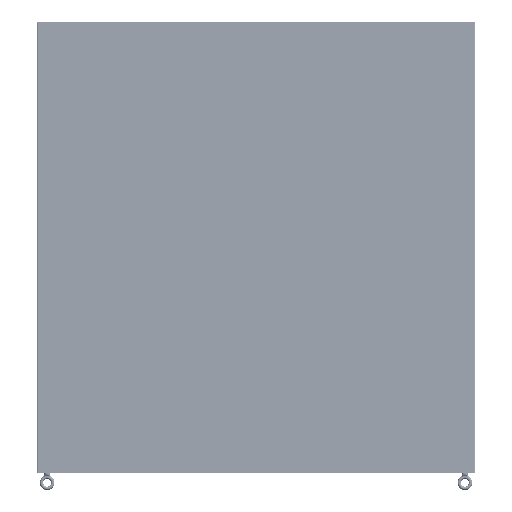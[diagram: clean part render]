
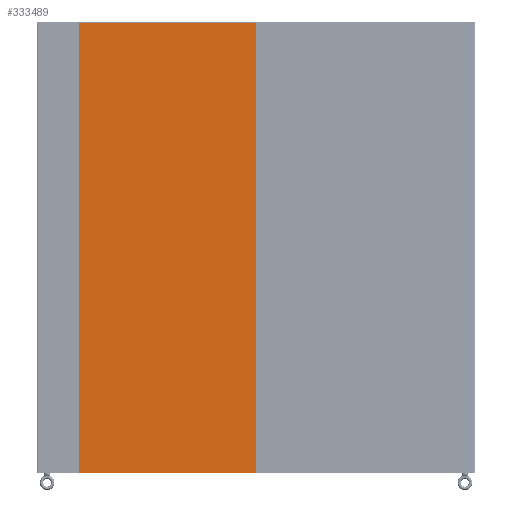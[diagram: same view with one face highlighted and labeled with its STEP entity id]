
A CAD part, left-side view. The second image highlights one B-rep face of the part: STEP entity #333489.
In plain terms, the highlighted planar face has unit normal (-1, 0, 0) as drawn and (0, 0, -1) by its records, which use the part's own axes.
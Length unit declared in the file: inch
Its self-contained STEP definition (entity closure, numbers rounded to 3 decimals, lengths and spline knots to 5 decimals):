
#333051=CARTESIAN_POINT('',(-15.6475,39.856,-0.104));
#333052=DIRECTION('',(0.,0.,-1.));
#333053=DIRECTION('',(-1.,0.,0.));
#333054=AXIS2_PLACEMENT_3D('',#333051,#333052,#333053);
#333059=DIRECTION('',(0.,-1.,0.));
#333060=VECTOR('',#333059,79.712);
#333061=CARTESIAN_POINT('',(-15.6875,39.856,-0.104));
#333062=LINE('',#333061,#333060);
#333066=CARTESIAN_POINT('',(-15.6475,-39.856,-0.104));
#333067=DIRECTION('',(0.,0.,-1.));
#333068=DIRECTION('',(0.,-1.,0.));
#333069=AXIS2_PLACEMENT_3D('',#333066,#333067,#333068);
#333074=DIRECTION('',(1.,0.,0.));
#333075=VECTOR('',#333074,31.295);
#333076=CARTESIAN_POINT('',(-15.6475,-39.896,-0.104));
#333077=LINE('',#333076,#333075);
#333081=CARTESIAN_POINT('',(15.6475,-39.856,-0.104));
#333082=DIRECTION('',(0.,0.,-1.));
#333083=DIRECTION('',(1.,0.,0.));
#333084=AXIS2_PLACEMENT_3D('',#333081,#333082,#333083);
#333089=DIRECTION('',(0.,1.,0.));
#333090=VECTOR('',#333089,79.712);
#333091=CARTESIAN_POINT('',(15.6875,-39.856,-0.104));
#333092=LINE('',#333091,#333090);
#333096=CARTESIAN_POINT('',(15.6475,39.856,-0.104));
#333097=DIRECTION('',(0.,0.,-1.));
#333098=DIRECTION('',(0.,1.,0.));
#333099=AXIS2_PLACEMENT_3D('',#333096,#333097,#333098);
#333104=DIRECTION('',(-1.,0.,0.));
#333105=VECTOR('',#333104,31.295);
#333106=CARTESIAN_POINT('',(15.6475,39.896,-0.104));
#333107=LINE('',#333106,#333105);
#333205=CARTESIAN_POINT('',(-15.6875,39.856,-0.104));
#333206=VERTEX_POINT('',#333205);
#333207=CARTESIAN_POINT('',(-15.6475,39.896,-0.104));
#333208=VERTEX_POINT('',#333207);
#333213=CARTESIAN_POINT('',(-15.6475,-39.896,-0.104));
#333214=VERTEX_POINT('',#333213);
#333215=CARTESIAN_POINT('',(-15.6875,-39.856,-0.104));
#333216=VERTEX_POINT('',#333215);
#333221=CARTESIAN_POINT('',(15.6475,39.896,-0.104));
#333222=VERTEX_POINT('',#333221);
#333223=CARTESIAN_POINT('',(15.6475,-39.896,-0.104));
#333224=VERTEX_POINT('',#333223);
#333227=CARTESIAN_POINT('',(15.6875,39.856,-0.104));
#333228=VERTEX_POINT('',#333227);
#333231=CARTESIAN_POINT('',(15.6875,-39.856,-0.104));
#333232=VERTEX_POINT('',#333231);
#333474=CARTESIAN_POINT('',(0.,0.,-0.104));
#333475=DIRECTION('',(0.,0.,1.));
#333476=DIRECTION('',(1.,0.,0.));
#333477=AXIS2_PLACEMENT_3D('',#333474,#333475,#333476);
#333478=PLANE('',#333477);
#333479=ORIENTED_EDGE('',*,*,#333314,.F.);
#333480=ORIENTED_EDGE('',*,*,#333337,.T.);
#333481=ORIENTED_EDGE('',*,*,#333357,.F.);
#333482=ORIENTED_EDGE('',*,*,#333379,.T.);
#333483=ORIENTED_EDGE('',*,*,#333399,.F.);
#333484=ORIENTED_EDGE('',*,*,#333419,.T.);
#333485=ORIENTED_EDGE('',*,*,#333441,.F.);
#333486=ORIENTED_EDGE('',*,*,#333460,.T.);
#333487=EDGE_LOOP('',(#333479,#333480,#333481,#333482,#333483,#333484,#333485,
#333486));
#333488=FACE_OUTER_BOUND('',#333487,.F.);
#333055=CIRCLE('',#333054,0.04);
#333070=CIRCLE('',#333069,0.04);
#333085=CIRCLE('',#333084,0.04);
#333100=CIRCLE('',#333099,0.04);
#333314=EDGE_CURVE('',#333206,#333208,#333055,.T.);
#333337=EDGE_CURVE('',#333206,#333216,#333062,.T.);
#333357=EDGE_CURVE('',#333214,#333216,#333070,.T.);
#333379=EDGE_CURVE('',#333214,#333224,#333077,.T.);
#333399=EDGE_CURVE('',#333232,#333224,#333085,.T.);
#333419=EDGE_CURVE('',#333232,#333228,#333092,.T.);
#333441=EDGE_CURVE('',#333222,#333228,#333100,.T.);
#333460=EDGE_CURVE('',#333222,#333208,#333107,.T.);
#333489=ADVANCED_FACE('',(#333488),#333478,.F.);
